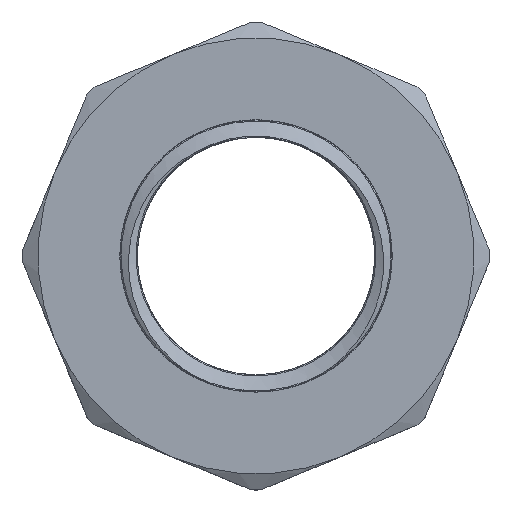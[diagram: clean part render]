
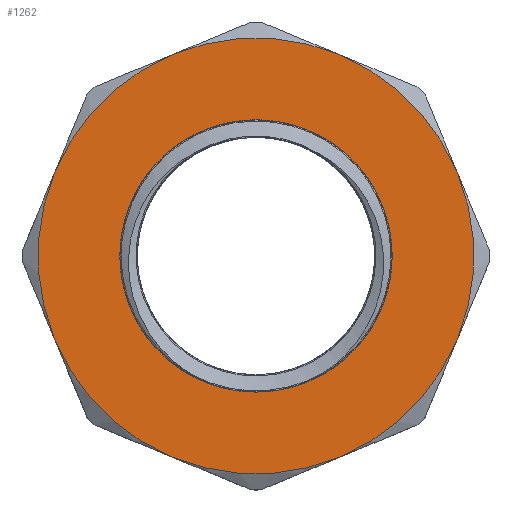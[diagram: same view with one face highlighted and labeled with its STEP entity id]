
A CAD part, top view. The second image highlights one B-rep face of the part: STEP entity #1262.
In plain terms, the highlighted planar face has unit normal (0, 0, 1).
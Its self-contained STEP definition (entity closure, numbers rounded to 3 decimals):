
#98=FACE_BOUND('',#344,.T.);
#113=PLANE('',#1396);
#266=FACE_OUTER_BOUND('',#343,.T.);
#343=EDGE_LOOP('',(#972,#973,#974,#975,#976,#977,#978,#979));
#344=EDGE_LOOP('',(#980,#981));
#392=CIRCLE('',#1328,17.);
#394=CIRCLE('',#1331,17.);
#396=CIRCLE('',#1334,17.);
#397=CIRCLE('',#1336,17.);
#399=CIRCLE('',#1339,17.);
#401=CIRCLE('',#1342,17.);
#403=CIRCLE('',#1345,17.);
#405=CIRCLE('',#1348,17.);
#427=CIRCLE('',#1397,10.615);
#428=CIRCLE('',#1398,10.615);
#484=VERTEX_POINT('',#1744);
#486=VERTEX_POINT('',#1750);
#488=VERTEX_POINT('',#1757);
#491=VERTEX_POINT('',#1769);
#494=VERTEX_POINT('',#1784);
#497=VERTEX_POINT('',#1796);
#500=VERTEX_POINT('',#1808);
#503=VERTEX_POINT('',#1820);
#535=VERTEX_POINT('',#1978);
#536=VERTEX_POINT('',#1979);
#616=EDGE_CURVE('',#484,#486,#392,.T.);
#620=EDGE_CURVE('',#488,#484,#394,.T.);
#624=EDGE_CURVE('',#491,#488,#396,.T.);
#626=EDGE_CURVE('',#494,#491,#397,.T.);
#630=EDGE_CURVE('',#497,#494,#399,.T.);
#634=EDGE_CURVE('',#500,#497,#401,.T.);
#638=EDGE_CURVE('',#503,#500,#403,.T.);
#642=EDGE_CURVE('',#486,#503,#405,.T.);
#698=EDGE_CURVE('',#535,#536,#427,.T.);
#699=EDGE_CURVE('',#536,#535,#428,.T.);
#972=ORIENTED_EDGE('',*,*,#642,.T.);
#973=ORIENTED_EDGE('',*,*,#638,.T.);
#974=ORIENTED_EDGE('',*,*,#634,.T.);
#975=ORIENTED_EDGE('',*,*,#630,.T.);
#976=ORIENTED_EDGE('',*,*,#626,.T.);
#977=ORIENTED_EDGE('',*,*,#624,.T.);
#978=ORIENTED_EDGE('',*,*,#620,.T.);
#979=ORIENTED_EDGE('',*,*,#616,.T.);
#980=ORIENTED_EDGE('',*,*,#698,.F.);
#981=ORIENTED_EDGE('',*,*,#699,.F.);
#1262=ADVANCED_FACE('',(#266,#98),#113,.T.);
#1328=AXIS2_PLACEMENT_3D('',#1754,#1456,#1457);
#1331=AXIS2_PLACEMENT_3D('',#1766,#1462,#1463);
#1334=AXIS2_PLACEMENT_3D('',#1778,#1468,#1469);
#1336=AXIS2_PLACEMENT_3D('',#1785,#1472,#1473);
#1339=AXIS2_PLACEMENT_3D('',#1797,#1478,#1479);
#1342=AXIS2_PLACEMENT_3D('',#1809,#1484,#1485);
#1345=AXIS2_PLACEMENT_3D('',#1821,#1490,#1491);
#1348=AXIS2_PLACEMENT_3D('',#1832,#1496,#1497);
#1396=AXIS2_PLACEMENT_3D('',#1977,#1609,#1610);
#1397=AXIS2_PLACEMENT_3D('',#1980,#1611,#1612);
#1398=AXIS2_PLACEMENT_3D('',#1981,#1613,#1614);
#1456=DIRECTION('center_axis',(0.,0.,1.));
#1457=DIRECTION('ref_axis',(0.,1.,0.));
#1462=DIRECTION('center_axis',(0.,0.,1.));
#1463=DIRECTION('ref_axis',(0.,1.,0.));
#1468=DIRECTION('center_axis',(0.,0.,1.));
#1469=DIRECTION('ref_axis',(0.,1.,0.));
#1472=DIRECTION('center_axis',(0.,0.,1.));
#1473=DIRECTION('ref_axis',(0.,1.,0.));
#1478=DIRECTION('center_axis',(0.,0.,1.));
#1479=DIRECTION('ref_axis',(0.,1.,0.));
#1484=DIRECTION('center_axis',(0.,0.,1.));
#1485=DIRECTION('ref_axis',(0.,1.,0.));
#1490=DIRECTION('center_axis',(0.,0.,1.));
#1491=DIRECTION('ref_axis',(0.,1.,0.));
#1496=DIRECTION('center_axis',(0.,0.,1.));
#1497=DIRECTION('ref_axis',(0.,1.,0.));
#1609=DIRECTION('center_axis',(0.,0.,1.));
#1610=DIRECTION('ref_axis',(1.,0.,0.));
#1611=DIRECTION('center_axis',(0.,0.,1.));
#1612=DIRECTION('ref_axis',(1.,0.,0.));
#1613=DIRECTION('center_axis',(0.,0.,1.));
#1614=DIRECTION('ref_axis',(1.,0.,0.));
#1744=CARTESIAN_POINT('',(-6.506,15.706,20.));
#1750=CARTESIAN_POINT('',(-15.706,6.506,20.));
#1754=CARTESIAN_POINT('Origin',(0.,0.,20.));
#1757=CARTESIAN_POINT('',(6.506,15.706,20.));
#1766=CARTESIAN_POINT('Origin',(0.,0.,20.));
#1769=CARTESIAN_POINT('',(15.706,6.506,20.));
#1778=CARTESIAN_POINT('Origin',(0.,0.,20.));
#1784=CARTESIAN_POINT('',(15.706,-6.506,20.));
#1785=CARTESIAN_POINT('Origin',(0.,0.,20.));
#1796=CARTESIAN_POINT('',(6.506,-15.706,20.));
#1797=CARTESIAN_POINT('Origin',(0.,0.,20.));
#1808=CARTESIAN_POINT('',(-6.506,-15.706,20.));
#1809=CARTESIAN_POINT('Origin',(0.,0.,20.));
#1820=CARTESIAN_POINT('',(-15.706,-6.506,20.));
#1821=CARTESIAN_POINT('Origin',(0.,0.,20.));
#1832=CARTESIAN_POINT('Origin',(0.,0.,20.));
#1977=CARTESIAN_POINT('Origin',(0.,-10.615,20.));
#1978=CARTESIAN_POINT('',(0.,-10.615,20.));
#1979=CARTESIAN_POINT('',(0.,10.615,20.));
#1980=CARTESIAN_POINT('Origin',(0.,0.,20.));
#1981=CARTESIAN_POINT('Origin',(0.,0.,20.));
